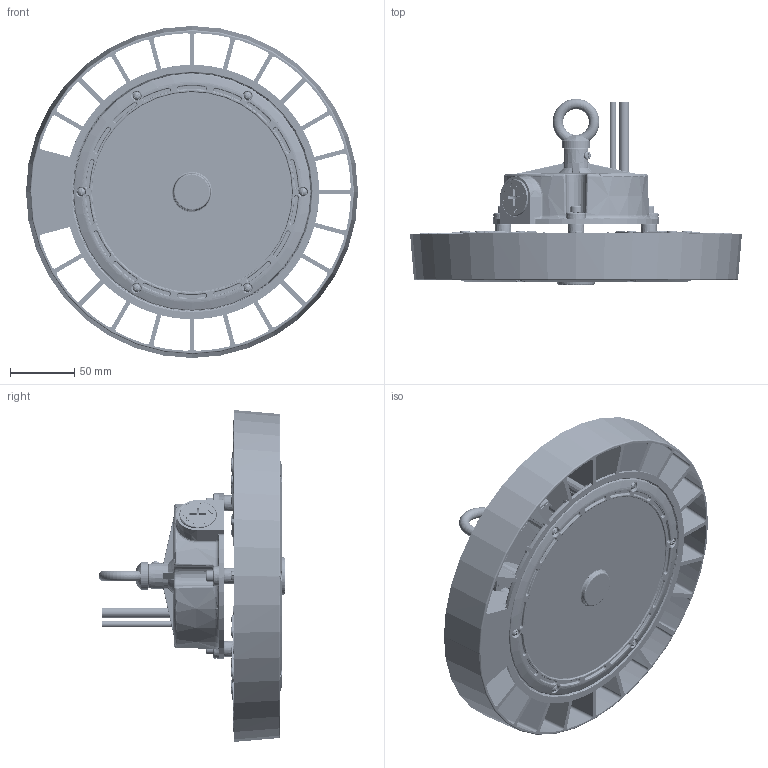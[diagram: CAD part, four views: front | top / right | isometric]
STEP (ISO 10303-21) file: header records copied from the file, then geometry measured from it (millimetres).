
FILE_DESCRIPTION((''),'2;1');
FILE_NAME('UFO-100N_ASM_4_ASM','2026-05-05T16:31:21',('Administrator'),(''),'CREO PARAMETRIC BY PTC INC, 2024063','CREO PARAMETRIC BY PTC INC, 2024063','');
FILE_SCHEMA(('CONFIG_CONTROL_DESIGN'));
Products named in the file (27): UFO-100N_1; M5X1_HXQ_2; PG7-12_7; DK-184-120-LENS-J-NN1_2_1; DK184-GGX-GJQ_3_1_1; DK184-GGX-LJB_5_1; M3CHENTOULUOSI_1_3; M3X8_PAN_TOU_2_2_3; DK184-GGX_ASM_10_ASM_1_ASM; DK184-GGX_ASM_ASM_1_ASM; NONE-47352; NONE-71452; Q7-_STEP00_ASM; Q7-PHILIPS0001; Q7-0002; Q7-00; Q7-__STEP0001; Q7-0004; Q7-0001_ASM; M10-14DIAOHUAN-1_1; M5X20-1_1_1; M5X20-1_1_2; M5X20-1_1_3; M5X20-1_1_ASM; M4X10_1; 3D0001_ASM; UFO-100N_ASM_4_ASM
Assembly tree (40 placements, depth 5):
  UFO-100N_ASM_4_ASM
    UFO-100N_1
    M5X1_HXQ_2
    PG7-12_7
    DK184-GGX_ASM_ASM_1_ASM
      DK184-GGX_ASM_10_ASM_1_ASM
        DK-184-120-LENS-J-NN1_2_1
        DK184-GGX-GJQ_3_1_1
        DK184-GGX-LJB_5_1
        M3CHENTOULUOSI_1_3  x7
        M3X8_PAN_TOU_2_2_3  x6
    3D0001_ASM
      Q7-0001_ASM
        Q7-_STEP00_ASM
          NONE-47352
          NONE-71452
        Q7-PHILIPS0001
        Q7-0002
        Q7-00
        Q7-__STEP0001
        Q7-0004
      M10-14DIAOHUAN-1_1
      M5X20-1_1_ASM  x4
        M5X20-1_1_1
        M5X20-1_1_2
        M5X20-1_1_3
      M4X10_1
Bounding box: 257.4 x 144.5 x 257.4 mm (x, y, z)
Volume: 492766.2 mm3; surface area: 464997.9 mm2
Topology: 245 solids, 248 shells, 6216 faces, 15412 edges, 9583 vertices
Faces by surface type: plane 2342, cylinder 1266, bspline 963, torus 752, cone 609, sphere 211, extrusion 69, revolution 4
Entity records: 285731 total; most frequent: CARTESIAN_POINT 161022, ORIENTED_EDGE 26948, DIRECTION 23954, EDGE_CURVE 13483, AXIS2_PLACEMENT_3D 9126, VERTEX_POINT 8483, EDGE_LOOP 5812, VECTOR 5698
